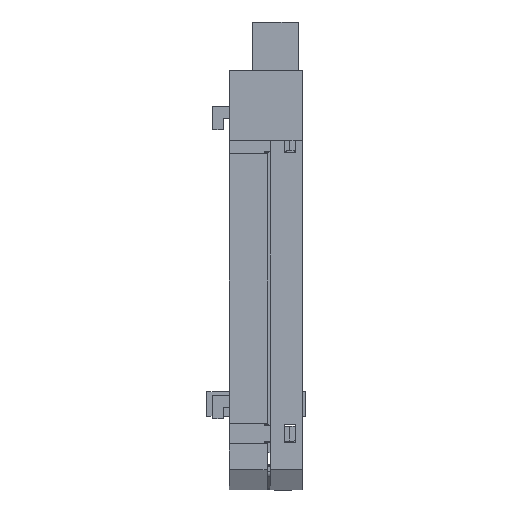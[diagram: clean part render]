
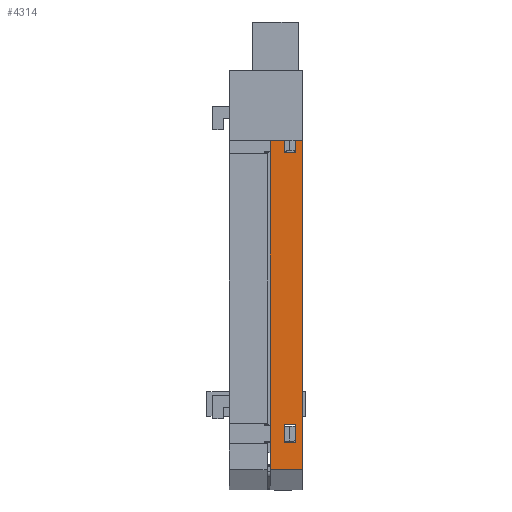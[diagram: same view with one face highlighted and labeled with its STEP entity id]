
A CAD part, front view. The second image highlights one B-rep face of the part: STEP entity #4314.
In plain terms, the highlighted planar face has unit normal (0, -1, 0).
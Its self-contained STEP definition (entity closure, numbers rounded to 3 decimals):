
#56 = DIRECTION ( 'NONE',  ( 0., 0., -1. ) ) ;
#77 = FACE_BOUND ( 'NONE', #18803, .T. ) ;
#434 = DIRECTION ( 'NONE',  ( -1., 0., 0. ) ) ;
#734 = VECTOR ( 'NONE', #31613, 1000. ) ;
#856 = FACE_OUTER_BOUND ( 'NONE', #13608, .T. ) ;
#1126 = VERTEX_POINT ( 'NONE', #20496 ) ;
#1372 = LINE ( 'NONE', #18293, #27344 ) ;
#1409 = VECTOR ( 'NONE', #56, 1000. ) ;
#2505 = ORIENTED_EDGE ( 'NONE', *, *, #16070, .T. ) ;
#2612 = ORIENTED_EDGE ( 'NONE', *, *, #29996, .T. ) ;
#2750 = ORIENTED_EDGE ( 'NONE', *, *, #14674, .T. ) ;
#3258 = LINE ( 'NONE', #20915, #10010 ) ;
#3289 = DIRECTION ( 'NONE',  ( 0., 0., -1. ) ) ;
#3383 = EDGE_CURVE ( 'NONE', #28815, #31845, #1372, .T. ) ;
#4117 = CARTESIAN_POINT ( 'NONE',  ( 5.5, 0., -65.25 ) ) ;
#4186 = CARTESIAN_POINT ( 'NONE',  ( 4.4, 0., -7.845 ) ) ;
#4314 = ADVANCED_FACE ( 'NONE', ( #26848, #77, #856 ), #31057, .F. ) ;
#4350 = CARTESIAN_POINT ( 'NONE',  ( 5.5, 0., 0. ) ) ;
#4440 = EDGE_CURVE ( 'NONE', #13409, #16254, #29538, .T. ) ;
#4561 = CARTESIAN_POINT ( 'NONE',  ( 0., 0., 0. ) ) ;
#4999 = LINE ( 'NONE', #18011, #10932 ) ;
#5085 = DIRECTION ( 'NONE',  ( -1., 0., 0. ) ) ;
#5247 = ORIENTED_EDGE ( 'NONE', *, *, #7993, .T. ) ;
#5408 = VECTOR ( 'NONE', #23562, 1000. ) ;
#5448 = ORIENTED_EDGE ( 'NONE', *, *, #24625, .T. ) ;
#5656 = EDGE_CURVE ( 'NONE', #31415, #18315, #27988, .T. ) ;
#5959 = CARTESIAN_POINT ( 'NONE',  ( 2.4, 0., -60.645 ) ) ;
#6405 = CARTESIAN_POINT ( 'NONE',  ( 4.4, 0., -60.645 ) ) ;
#6568 = LINE ( 'NONE', #30052, #19154 ) ;
#7219 = VECTOR ( 'NONE', #434, 1000. ) ;
#7682 = LINE ( 'NONE', #8851, #26906 ) ;
#7687 = CARTESIAN_POINT ( 'NONE',  ( 5.5, 0., -65.25 ) ) ;
#7928 = AXIS2_PLACEMENT_3D ( 'NONE', #12294, #8543, #24144 ) ;
#7993 = EDGE_CURVE ( 'NONE', #14348, #15556, #18028, .T. ) ;
#8393 = ORIENTED_EDGE ( 'NONE', *, *, #17355, .T. ) ;
#8543 = DIRECTION ( 'NONE',  ( 0., 1., 0. ) ) ;
#8778 = VECTOR ( 'NONE', #5085, 1000. ) ;
#8851 = CARTESIAN_POINT ( 'NONE',  ( 4.4, 0., -60.645 ) ) ;
#10010 = VECTOR ( 'NONE', #3289, 1000. ) ;
#10112 = DIRECTION ( 'NONE',  ( -1., 0., 0. ) ) ;
#10393 = VECTOR ( 'NONE', #28957, 1000. ) ;
#10474 = LINE ( 'NONE', #22582, #29624 ) ;
#10810 = ORIENTED_EDGE ( 'NONE', *, *, #25527, .T. ) ;
#10831 = DIRECTION ( 'NONE',  ( 0., 0., -1. ) ) ;
#10932 = VECTOR ( 'NONE', #20528, 1000. ) ;
#11404 = DIRECTION ( 'NONE',  ( 0., 0., -1. ) ) ;
#12294 = CARTESIAN_POINT ( 'NONE',  ( 5.5, 0., 0. ) ) ;
#13409 = VERTEX_POINT ( 'NONE', #7687 ) ;
#13608 = EDGE_LOOP ( 'NONE', ( #2750, #15904, #19694, #19852 ) ) ;
#14048 = ORIENTED_EDGE ( 'NONE', *, *, #21986, .T. ) ;
#14200 = VERTEX_POINT ( 'NONE', #20812 ) ;
#14348 = VERTEX_POINT ( 'NONE', #6405 ) ;
#14674 = EDGE_CURVE ( 'NONE', #18315, #16254, #21537, .T. ) ;
#15556 = VERTEX_POINT ( 'NONE', #16700 ) ;
#15904 = ORIENTED_EDGE ( 'NONE', *, *, #4440, .F. ) ;
#15905 = EDGE_CURVE ( 'NONE', #31415, #13409, #3258, .T. ) ;
#16070 = EDGE_CURVE ( 'NONE', #15556, #20328, #17090, .T. ) ;
#16254 = VERTEX_POINT ( 'NONE', #24501 ) ;
#16339 = CARTESIAN_POINT ( 'NONE',  ( 4.4, 0., -10.945 ) ) ;
#16700 = CARTESIAN_POINT ( 'NONE',  ( 2.4, 0., -60.645 ) ) ;
#17090 = LINE ( 'NONE', #26478, #10393 ) ;
#17355 = EDGE_CURVE ( 'NONE', #20328, #14200, #20870, .T. ) ;
#18011 = CARTESIAN_POINT ( 'NONE',  ( 2.4, 0., -10.945 ) ) ;
#18028 = LINE ( 'NONE', #5959, #5408 ) ;
#18293 = CARTESIAN_POINT ( 'NONE',  ( 4.4, 0., -10.945 ) ) ;
#18315 = VERTEX_POINT ( 'NONE', #4561 ) ;
#18803 = EDGE_LOOP ( 'NONE', ( #5247, #2505, #8393, #14048 ) ) ;
#19154 = VECTOR ( 'NONE', #32577, 1000. ) ;
#19694 = ORIENTED_EDGE ( 'NONE', *, *, #15905, .F. ) ;
#19852 = ORIENTED_EDGE ( 'NONE', *, *, #5656, .T. ) ;
#20328 = VERTEX_POINT ( 'NONE', #22128 ) ;
#20496 = CARTESIAN_POINT ( 'NONE',  ( 2.4, 0., -10.945 ) ) ;
#20528 = DIRECTION ( 'NONE',  ( 0., 0., 1. ) ) ;
#20812 = CARTESIAN_POINT ( 'NONE',  ( 4.4, 0., -57.545 ) ) ;
#20870 = LINE ( 'NONE', #29085, #734 ) ;
#20915 = CARTESIAN_POINT ( 'NONE',  ( 5.5, 0., 0. ) ) ;
#21478 = CARTESIAN_POINT ( 'NONE',  ( 2.4, 0., -7.845 ) ) ;
#21537 = LINE ( 'NONE', #30138, #1409 ) ;
#21986 = EDGE_CURVE ( 'NONE', #14200, #14348, #7682, .T. ) ;
#22128 = CARTESIAN_POINT ( 'NONE',  ( 2.4, 0., -57.545 ) ) ;
#22582 = CARTESIAN_POINT ( 'NONE',  ( 2.4, 0., -10.945 ) ) ;
#22796 = EDGE_LOOP ( 'NONE', ( #2612, #5448, #30634, #10810 ) ) ;
#23562 = DIRECTION ( 'NONE',  ( -1., 0., 0. ) ) ;
#24144 = DIRECTION ( 'NONE',  ( 0., 0., 1. ) ) ;
#24501 = CARTESIAN_POINT ( 'NONE',  ( 0., 0., -65.25 ) ) ;
#24625 = EDGE_CURVE ( 'NONE', #27269, #28815, #6568, .T. ) ;
#25265 = CARTESIAN_POINT ( 'NONE',  ( 5.5, 0., 0. ) ) ;
#25527 = EDGE_CURVE ( 'NONE', #31845, #1126, #10474, .T. ) ;
#26478 = CARTESIAN_POINT ( 'NONE',  ( 2.4, 0., -60.645 ) ) ;
#26848 = FACE_BOUND ( 'NONE', #22796, .T. ) ;
#26906 = VECTOR ( 'NONE', #11404, 1000. ) ;
#27269 = VERTEX_POINT ( 'NONE', #21478 ) ;
#27344 = VECTOR ( 'NONE', #10831, 1000. ) ;
#27988 = LINE ( 'NONE', #25265, #7219 ) ;
#28815 = VERTEX_POINT ( 'NONE', #4186 ) ;
#28957 = DIRECTION ( 'NONE',  ( 0., 0., 1. ) ) ;
#29085 = CARTESIAN_POINT ( 'NONE',  ( 2.4, 0., -57.545 ) ) ;
#29538 = LINE ( 'NONE', #4117, #8778 ) ;
#29624 = VECTOR ( 'NONE', #10112, 1000. ) ;
#29996 = EDGE_CURVE ( 'NONE', #1126, #27269, #4999, .T. ) ;
#30052 = CARTESIAN_POINT ( 'NONE',  ( 2.4, 0., -7.845 ) ) ;
#30138 = CARTESIAN_POINT ( 'NONE',  ( 0., 0., 0. ) ) ;
#30634 = ORIENTED_EDGE ( 'NONE', *, *, #3383, .T. ) ;
#31057 = PLANE ( 'NONE',  #7928 ) ;
#31415 = VERTEX_POINT ( 'NONE', #4350 ) ;
#31613 = DIRECTION ( 'NONE',  ( 1., 0., 0. ) ) ;
#31845 = VERTEX_POINT ( 'NONE', #16339 ) ;
#32577 = DIRECTION ( 'NONE',  ( 1., 0., 0. ) ) ;
